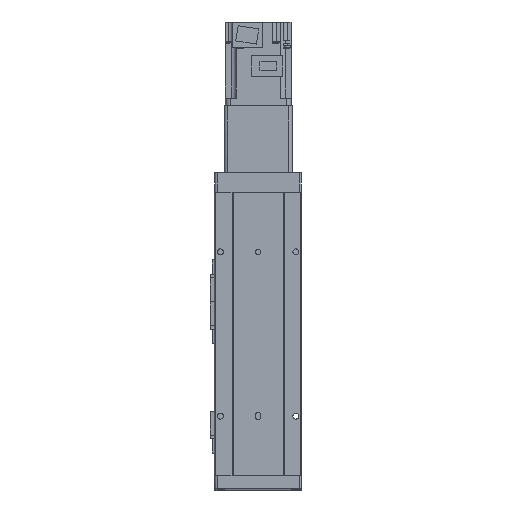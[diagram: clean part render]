
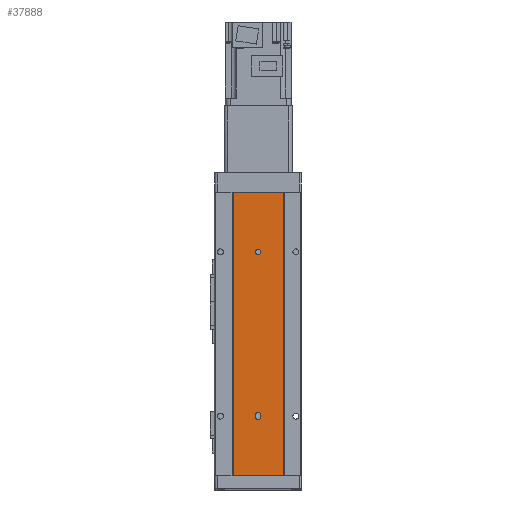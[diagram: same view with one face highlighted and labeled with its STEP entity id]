
A CAD part, front view. The second image highlights one B-rep face of the part: STEP entity #37888.
In plain terms, the highlighted planar face has unit normal (0, -1, 0).
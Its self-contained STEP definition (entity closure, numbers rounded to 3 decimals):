
#3910 = CARTESIAN_POINT ( 'NONE',  ( 2.5, 0.5, -205.5 ) ) ;
#3919 = CARTESIAN_POINT ( 'NONE',  ( 0., 0.5, -57. ) ) ;
#3938 = CARTESIAN_POINT ( 'NONE',  ( 0., 0.5, -208. ) ) ;
#3951 = CARTESIAN_POINT ( 'NONE',  ( 0., 0.5, -52. ) ) ;
#5492 = LINE ( 'NONE', #6637, #5507 ) ;
#5504 = LINE ( 'NONE', #6627, #5510 ) ;
#5507 = VECTOR ( 'NONE', #6613, 1000. ) ;
#5510 = VECTOR ( 'NONE', #6611, 1000. ) ;
#6611 = DIRECTION ( 'NONE',  ( 1., 0., 0. ) ) ;
#6613 = DIRECTION ( 'NONE',  ( 1., 0., 0. ) ) ;
#6627 = CARTESIAN_POINT ( 'NONE',  ( -23., 0.5, -259. ) ) ;
#6637 = CARTESIAN_POINT ( 'NONE',  ( -23., 0.5, 0. ) ) ;
#15137 = AXIS2_PLACEMENT_3D ( 'NONE', #18749, #18714, #18715 ) ;
#15618 = AXIS2_PLACEMENT_3D ( 'NONE', #23615, #23622, #23600 ) ;
#15661 = AXIS2_PLACEMENT_3D ( 'NONE', #23627, #23601, #23602 ) ;
#15760 = AXIS2_PLACEMENT_3D ( 'NONE', #24402, #24403, #24404 ) ;
#15787 = AXIS2_PLACEMENT_3D ( 'NONE', #24595, #24610, #24620 ) ;
#15789 = AXIS2_PLACEMENT_3D ( 'NONE', #24631, #24600, #24673 ) ;
#17888 = FACE_BOUND ( 'NONE', #29703, .T. ) ;
#17893 = FACE_OUTER_BOUND ( 'NONE', #29689, .T. ) ;
#17905 = FACE_BOUND ( 'NONE', #29793, .T. ) ;
#18711 = PLANE ( 'NONE',  #15137 ) ;
#18714 = DIRECTION ( 'NONE',  ( 0., -1., 0. ) ) ;
#18715 = DIRECTION ( 'NONE',  ( 1., 0., 0. ) ) ;
#18749 = CARTESIAN_POINT ( 'NONE',  ( -23., 0.5, -259. ) ) ;
#19365 = LINE ( 'NONE', #24432, #19387 ) ;
#19374 = VECTOR ( 'NONE', #24444, 1000. ) ;
#19386 = LINE ( 'NONE', #24461, #19374 ) ;
#19387 = VECTOR ( 'NONE', #24455, 1000. ) ;
#19392 = LINE ( 'NONE', #24441, #19393 ) ;
#19393 = VECTOR ( 'NONE', #24462, 1000. ) ;
#19788 = CIRCLE ( 'NONE', #15618, 2.5 ) ;
#19861 = CIRCLE ( 'NONE', #15661, 2.5 ) ;
#20352 = VECTOR ( 'NONE', #24459, 1000. ) ;
#20371 = CIRCLE ( 'NONE', #15760, 2.5 ) ;
#20386 = LINE ( 'NONE', #24452, #20352 ) ;
#22436 = CARTESIAN_POINT ( 'NONE',  ( 23., 0.5, -259. ) ) ;
#22508 = CARTESIAN_POINT ( 'NONE',  ( 23., 0.5, 0. ) ) ;
#22530 = CARTESIAN_POINT ( 'NONE',  ( -23., 0.5, 0. ) ) ;
#22533 = CARTESIAN_POINT ( 'NONE',  ( -23., 0.5, -259. ) ) ;
#23600 = DIRECTION ( 'NONE',  ( 1., 0., 0. ) ) ;
#23601 = DIRECTION ( 'NONE',  ( 0., -1., 0. ) ) ;
#23602 = DIRECTION ( 'NONE',  ( 1., 0., 0. ) ) ;
#23615 = CARTESIAN_POINT ( 'NONE',  ( 0., 0.5, -54.5 ) ) ;
#23622 = DIRECTION ( 'NONE',  ( 0., -1., 0. ) ) ;
#23627 = CARTESIAN_POINT ( 'NONE',  ( 0., 0.5, -205.5 ) ) ;
#24402 = CARTESIAN_POINT ( 'NONE',  ( 0., 0.5, -205.5 ) ) ;
#24403 = DIRECTION ( 'NONE',  ( 0., -1., 0. ) ) ;
#24404 = DIRECTION ( 'NONE',  ( 1., 0., 0. ) ) ;
#24432 = CARTESIAN_POINT ( 'NONE',  ( -23., 0.5, -259. ) ) ;
#24441 = CARTESIAN_POINT ( 'NONE',  ( -2.5, 0.5, -259. ) ) ;
#24444 = DIRECTION ( 'NONE',  ( 0., 0., 1. ) ) ;
#24452 = CARTESIAN_POINT ( 'NONE',  ( 2.5, 0.5, -259. ) ) ;
#24455 = DIRECTION ( 'NONE',  ( 0., 0., 1. ) ) ;
#24459 = DIRECTION ( 'NONE',  ( 0., 0., 1. ) ) ;
#24461 = CARTESIAN_POINT ( 'NONE',  ( 23., 0.5, -259. ) ) ;
#24462 = DIRECTION ( 'NONE',  ( 0., 0., -1. ) ) ;
#24595 = CARTESIAN_POINT ( 'NONE',  ( 0., 0.5, -54.5 ) ) ;
#24600 = DIRECTION ( 'NONE',  ( 0., -1., 0. ) ) ;
#24610 = DIRECTION ( 'NONE',  ( 0., -1., 0. ) ) ;
#24620 = DIRECTION ( 'NONE',  ( 1., 0., 0. ) ) ;
#24631 = CARTESIAN_POINT ( 'NONE',  ( 0., 0.5, -203.5 ) ) ;
#24673 = DIRECTION ( 'NONE',  ( 1., 0., 0. ) ) ;
#25026 = CIRCLE ( 'NONE', #15787, 2.5 ) ;
#25029 = CIRCLE ( 'NONE', #15789, 2.5 ) ;
#26439 = VERTEX_POINT ( 'NONE', #41572 ) ;
#26487 = VERTEX_POINT ( 'NONE', #41559 ) ;
#26488 = VERTEX_POINT ( 'NONE', #41605 ) ;
#28554 = ORIENTED_EDGE ( 'NONE', *, *, #39145, .F. ) ;
#28556 = ORIENTED_EDGE ( 'NONE', *, *, #38825, .F. ) ;
#28564 = ORIENTED_EDGE ( 'NONE', *, *, #39153, .F. ) ;
#28570 = ORIENTED_EDGE ( 'NONE', *, *, #31547, .F. ) ;
#28576 = ORIENTED_EDGE ( 'NONE', *, *, #31558, .T. ) ;
#28592 = ORIENTED_EDGE ( 'NONE', *, *, #39169, .F. ) ;
#28608 = ORIENTED_EDGE ( 'NONE', *, *, #39241, .F. ) ;
#28610 = ORIENTED_EDGE ( 'NONE', *, *, #39160, .F. ) ;
#28624 = ORIENTED_EDGE ( 'NONE', *, *, #39168, .T. ) ;
#28636 = ORIENTED_EDGE ( 'NONE', *, *, #39244, .F. ) ;
#28654 = ORIENTED_EDGE ( 'NONE', *, *, #38817, .F. ) ;
#29612 = VERTEX_POINT ( 'NONE', #3919 ) ;
#29613 = VERTEX_POINT ( 'NONE', #3951 ) ;
#29647 = VERTEX_POINT ( 'NONE', #3910 ) ;
#29648 = VERTEX_POINT ( 'NONE', #3938 ) ;
#29689 = EDGE_LOOP ( 'NONE', ( #28570, #28610, #28576, #28624 ) ) ;
#29703 = EDGE_LOOP ( 'NONE', ( #28608, #28654 ) ) ;
#29793 = EDGE_LOOP ( 'NONE', ( #28554, #28592, #28636, #28564, #28556 ) ) ;
#31547 = EDGE_CURVE ( 'NONE', #38339, #38335, #5492, .T. ) ;
#31558 = EDGE_CURVE ( 'NONE', #38359, #38308, #5504, .T. ) ;
#37888 = ADVANCED_FACE ( 'NONE', ( #17905, #17888, #17893 ), #18711, .T. ) ;
#38308 = VERTEX_POINT ( 'NONE', #22436 ) ;
#38335 = VERTEX_POINT ( 'NONE', #22508 ) ;
#38339 = VERTEX_POINT ( 'NONE', #22530 ) ;
#38359 = VERTEX_POINT ( 'NONE', #22533 ) ;
#38817 = EDGE_CURVE ( 'NONE', #29613, #29612, #19788, .T. ) ;
#38825 = EDGE_CURVE ( 'NONE', #29648, #29647, #19861, .T. ) ;
#39145 = EDGE_CURVE ( 'NONE', #26488, #29648, #20371, .T. ) ;
#39153 = EDGE_CURVE ( 'NONE', #29647, #26439, #20386, .T. ) ;
#39160 = EDGE_CURVE ( 'NONE', #38359, #38339, #19365, .T. ) ;
#39168 = EDGE_CURVE ( 'NONE', #38308, #38335, #19386, .T. ) ;
#39169 = EDGE_CURVE ( 'NONE', #26487, #26488, #19392, .T. ) ;
#39241 = EDGE_CURVE ( 'NONE', #29612, #29613, #25026, .T. ) ;
#39244 = EDGE_CURVE ( 'NONE', #26439, #26487, #25029, .T. ) ;
#41559 = CARTESIAN_POINT ( 'NONE',  ( -2.5, 0.5, -203.5 ) ) ;
#41572 = CARTESIAN_POINT ( 'NONE',  ( 2.5, 0.5, -203.5 ) ) ;
#41605 = CARTESIAN_POINT ( 'NONE',  ( -2.5, 0.5, -205.5 ) ) ;
